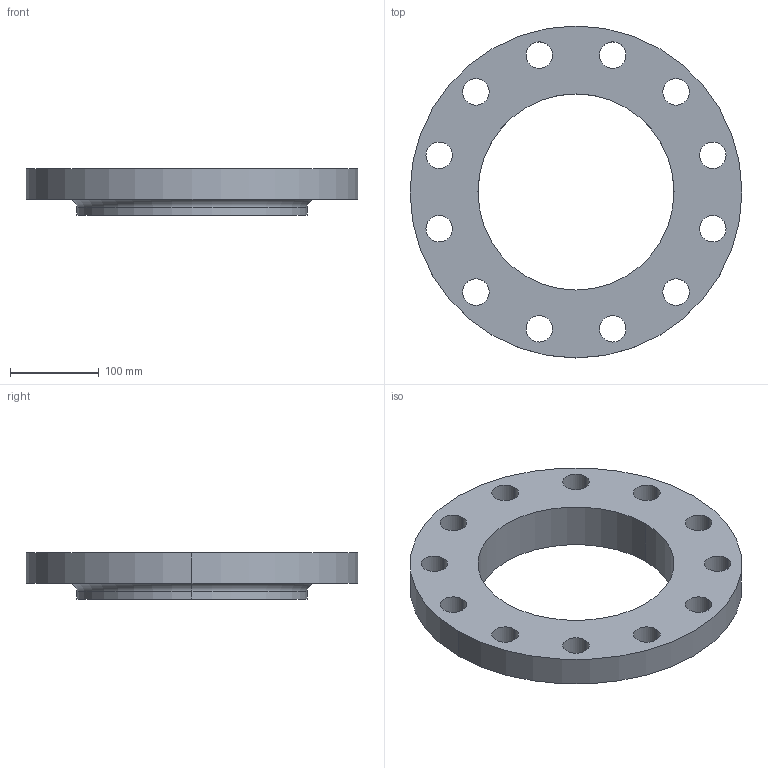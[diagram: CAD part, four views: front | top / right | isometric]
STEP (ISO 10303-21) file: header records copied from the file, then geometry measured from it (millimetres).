
FILE_DESCRIPTION (( 'STEP AP214' ), '1' );
FILE_NAME ('PN40 DN200 Type 12 - Type A Face.STEP', '2019-01-05T02:17:18', ( '' ), ( '' ), 'SwSTEP 2.0', 'SolidWorks 2019', '' );
FILE_SCHEMA (( 'AUTOMOTIVE_DESIGN' ));
Length unit declared in the file: millimetre
Products named in the file (1): PN40 DN200 Type 12 - Type A Face
Bounding box: 375 x 375 x 52 mm (x, y, z)
Volume: 2436552.6 mm3; surface area: 252796.4 mm2
Topology: 1 solids, 1 shells, 35 faces, 94 edges, 62 vertices
Faces by surface type: cylinder 30, plane 3, torus 2
Entity records: 1222 total; most frequent: DIRECTION 230, CARTESIAN_POINT 192, ORIENTED_EDGE 188, AXIS2_PLACEMENT_3D 100, EDGE_CURVE 94, CIRCLE 64, EDGE_LOOP 62, VERTEX_POINT 62
